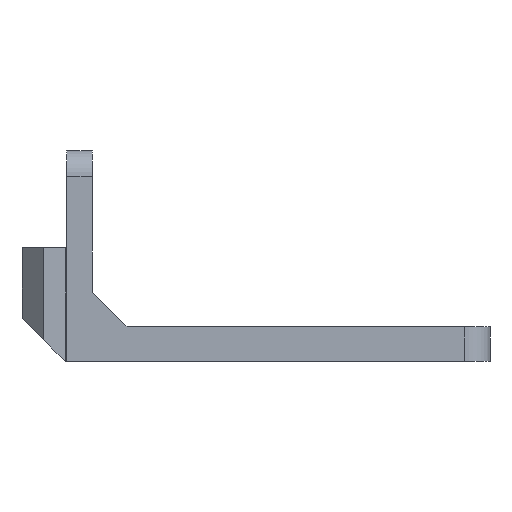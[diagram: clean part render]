
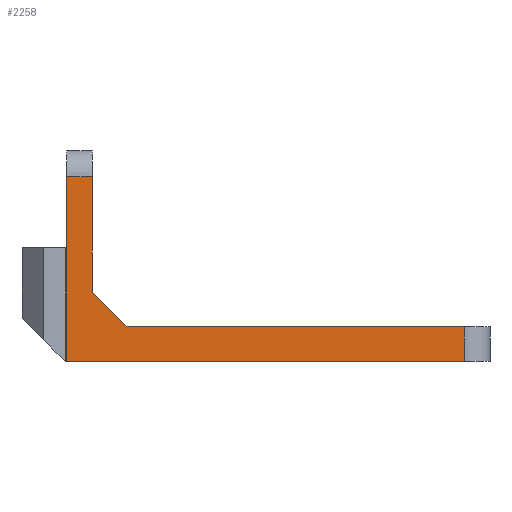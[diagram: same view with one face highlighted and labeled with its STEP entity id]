
A CAD part, front view. The second image highlights one B-rep face of the part: STEP entity #2258.
In plain terms, the highlighted planar face has unit normal (0, -1, 0).
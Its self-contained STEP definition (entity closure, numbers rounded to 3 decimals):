
#144=FACE_OUTER_BOUND('',#271,.T.);
#271=EDGE_LOOP('',(#1691,#1692,#1693,#1694,#1695,#1696,#1697));
#482=LINE('',#3362,#767);
#485=LINE('',#3369,#770);
#491=LINE('',#3382,#776);
#492=LINE('',#3384,#777);
#493=LINE('',#3386,#778);
#494=LINE('',#3388,#779);
#495=LINE('',#3389,#780);
#767=VECTOR('',#2720,10.);
#770=VECTOR('',#2727,10.);
#776=VECTOR('',#2737,10.);
#777=VECTOR('',#2738,10.);
#778=VECTOR('',#2739,10.);
#779=VECTOR('',#2740,10.);
#780=VECTOR('',#2741,10.);
#1013=VERTEX_POINT('',#3359);
#1014=VERTEX_POINT('',#3361);
#1016=VERTEX_POINT('',#3367);
#1021=VERTEX_POINT('',#3381);
#1022=VERTEX_POINT('',#3383);
#1023=VERTEX_POINT('',#3385);
#1024=VERTEX_POINT('',#3387);
#1269=EDGE_CURVE('',#1013,#1014,#482,.T.);
#1273=EDGE_CURVE('',#1016,#1013,#485,.T.);
#1279=EDGE_CURVE('',#1021,#1016,#491,.T.);
#1280=EDGE_CURVE('',#1022,#1021,#492,.T.);
#1281=EDGE_CURVE('',#1023,#1022,#493,.T.);
#1282=EDGE_CURVE('',#1024,#1023,#494,.T.);
#1283=EDGE_CURVE('',#1014,#1024,#495,.F.);
#1691=ORIENTED_EDGE('',*,*,#1279,.F.);
#1692=ORIENTED_EDGE('',*,*,#1280,.F.);
#1693=ORIENTED_EDGE('',*,*,#1281,.F.);
#1694=ORIENTED_EDGE('',*,*,#1282,.F.);
#1695=ORIENTED_EDGE('',*,*,#1283,.F.);
#1696=ORIENTED_EDGE('',*,*,#1269,.F.);
#1697=ORIENTED_EDGE('',*,*,#1273,.F.);
#2159=PLANE('',#2393);
#2258=ADVANCED_FACE('',(#144),#2159,.F.);
#2393=AXIS2_PLACEMENT_3D('',#3380,#2735,#2736);
#2720=DIRECTION('',(0.,0.,-1.));
#2727=DIRECTION('',(1.,0.,0.));
#2735=DIRECTION('center_axis',(0.,1.,0.));
#2736=DIRECTION('ref_axis',(0.,0.,1.));
#2737=DIRECTION('',(0.707,0.,-0.707));
#2738=DIRECTION('',(0.,0.,-1.));
#2739=DIRECTION('',(1.,0.,0.));
#2740=DIRECTION('',(0.,0.,1.));
#2741=DIRECTION('',(1.,0.,0.));
#3359=CARTESIAN_POINT('',(142.15,-20.8,-108.15));
#3361=CARTESIAN_POINT('',(142.15,-20.8,-112.15));
#3362=CARTESIAN_POINT('',(142.15,-20.8,-108.15));
#3367=CARTESIAN_POINT('',(103.15,-20.8,-108.15));
#3369=CARTESIAN_POINT('',(103.15,-20.8,-108.15));
#3380=CARTESIAN_POINT('Origin',(96.15,-20.8,-87.76));
#3381=CARTESIAN_POINT('',(99.15,-20.8,-104.15));
#3382=CARTESIAN_POINT('',(95.302,-20.8,-100.303));
#3383=CARTESIAN_POINT('',(99.15,-20.8,-90.76));
#3384=CARTESIAN_POINT('',(99.15,-20.8,-93.851));
#3385=CARTESIAN_POINT('',(96.15,-20.8,-90.76));
#3386=CARTESIAN_POINT('',(96.15,-20.8,-90.76));
#3387=CARTESIAN_POINT('',(96.15,-20.8,-112.15));
#3388=CARTESIAN_POINT('',(96.15,-20.8,-93.851));
#3389=CARTESIAN_POINT('',(96.15,-20.8,-112.15));
